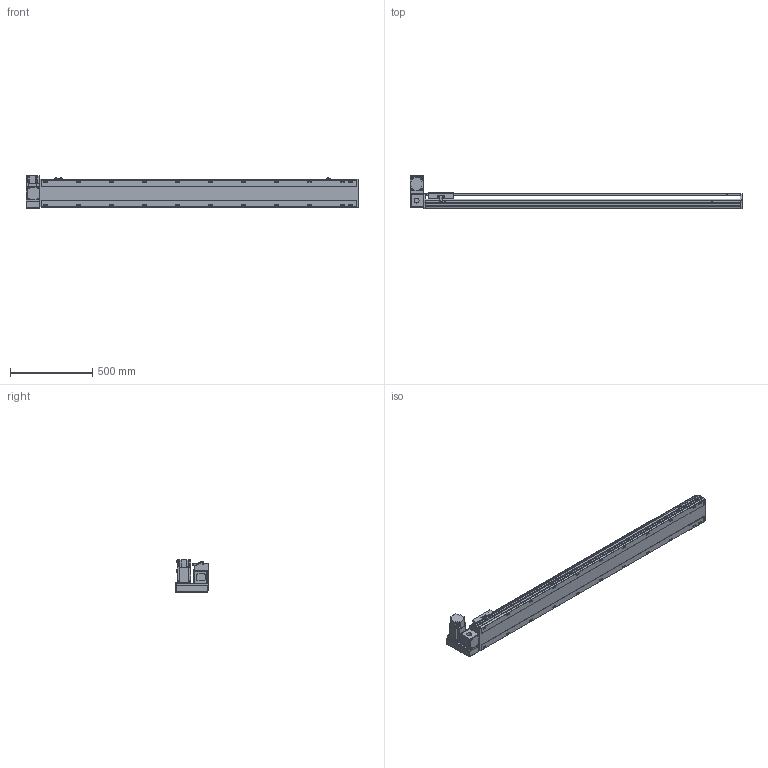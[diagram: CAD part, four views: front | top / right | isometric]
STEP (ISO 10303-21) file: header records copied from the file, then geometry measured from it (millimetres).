
FILE_DESCRIPTION( ( 'STEP AP214' ), '1' );
FILE_NAME( 'x:/temp/worker_4/temp/exporttempdir_2248_405_e8vW4/format_0/PBS170-P40-S1650-LU-T75-C1-N(0).stp', '2022-06-07T08:16:17', ( 'License CC BY-ND 4.0' ), ( 'CADENAS' ), ' ', 'PARTsolutions', ' ' );
FILE_SCHEMA( ( 'AUTOMOTIVE_DESIGN { 1 0 10303 214 1 1 1 1 }' ) );
Length unit declared in the file: millimetre
Products named in the file (7): PBS170-P40-S1650-LU-T75-C1-N(0); _PBS170-S1650()_body; _PBS170T-LU_motors; _T75-p1; _PBS170_sliser; _PBS170_plant; _PBS170_sensor
Assembly tree (8 placements, depth 2):
  PBS170-P40-S1650-LU-T75-C1-N(0)
    _PBS170-S1650()_body
    _PBS170T-LU_motors
    _T75-p1
    _PBS170_sliser
    _PBS170_plant
    _PBS170_sensor  x3
Bounding box: 2013 x 206 x 197.3 mm (x, y, z)
Volume: 15619127.4 mm3; surface area: 2000026.9 mm2
Topology: 8 solids, 8 shells, 1130 faces, 2995 edges, 1952 vertices
Faces by surface type: plane 705, cylinder 363, cone 52, sphere 8, torus 2
Full cylindrical faces by diameter (mm): 3.242 x4, 4 x2, 4.4 x4, 4.5 x6, 4.917 x4, 6 x9, 6.647 x30, 7 x2, 7.5 x4, 8 x8, 8.5 x22, 10 x4, 10.5 x22, 11 x2, 30 x2, 40 x1, 70 x1
Entity records: 41666 total; most frequent: CARTESIAN_POINT 6725, DIRECTION 5510, ORIENTED_EDGE 5208, EDGE_CURVE 2604, AXIS2_PLACEMENT_3D 1927, VERTEX_POINT 1802, LINE 1656, VECTOR 1656
